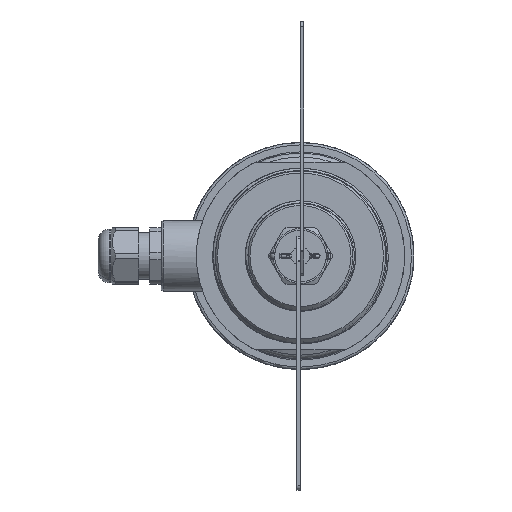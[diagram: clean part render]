
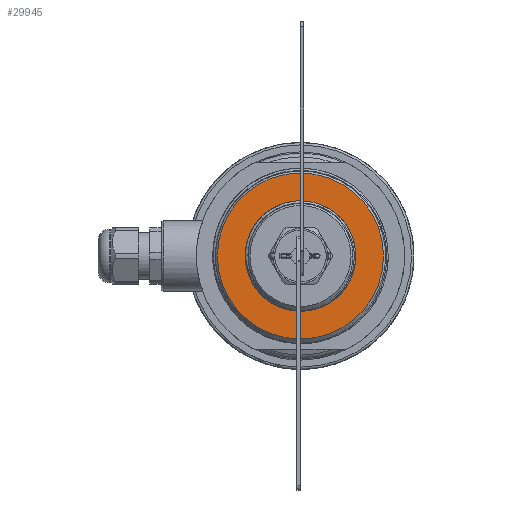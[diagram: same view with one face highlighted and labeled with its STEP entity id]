
A CAD part, front view. The second image highlights one B-rep face of the part: STEP entity #29945.
In plain terms, the highlighted planar face has unit normal (0, -1, 0).
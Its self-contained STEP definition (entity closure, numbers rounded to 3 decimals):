
#1810 = VERTEX_POINT ( 'NONE', #2160 ) ;
#2160 = CARTESIAN_POINT ( 'NONE',  ( -9.388, 94.5, 21.653 ) ) ;
#2248 = DIRECTION ( 'NONE',  ( 0., 0., 1. ) ) ;
#2866 = AXIS2_PLACEMENT_3D ( 'NONE', #8004, #17338, #26626 ) ;
#3014 = AXIS2_PLACEMENT_3D ( 'NONE', #18112, #27406, #6492 ) ;
#3924 = VERTEX_POINT ( 'NONE', #21439 ) ;
#5234 = AXIS2_PLACEMENT_3D ( 'NONE', #10422, #19768, #29028 ) ;
#5270 = ORIENTED_EDGE ( 'NONE', *, *, #5688, .T. ) ;
#5562 = CARTESIAN_POINT ( 'NONE',  ( 0., 94.5, 0. ) ) ;
#5688 = EDGE_CURVE ( 'NONE', #28614, #3924, #18422, .T. ) ;
#6492 = DIRECTION ( 'NONE',  ( 0., 0., 1. ) ) ;
#6878 = AXIS2_PLACEMENT_3D ( 'NONE', #13840, #23174, #2248 ) ;
#6951 = VERTEX_POINT ( 'NONE', #29865 ) ;
#7161 = ORIENTED_EDGE ( 'NONE', *, *, #16810, .T. ) ;
#7304 = ORIENTED_EDGE ( 'NONE', *, *, #15423, .T. ) ;
#7929 = CIRCLE ( 'NONE', #25013, 35.5 ) ;
#8004 = CARTESIAN_POINT ( 'NONE',  ( 37.5, 94.5, 0. ) ) ;
#8274 = ORIENTED_EDGE ( 'NONE', *, *, #11224, .T. ) ;
#8523 = DIRECTION ( 'NONE',  ( 0., 0., 1. ) ) ;
#9967 = EDGE_CURVE ( 'NONE', #6951, #16761, #24883, .T. ) ;
#10296 = FACE_OUTER_BOUND ( 'NONE', #20923, .T. ) ;
#10422 = CARTESIAN_POINT ( 'NONE',  ( 0., 94.5, 0. ) ) ;
#10663 = CARTESIAN_POINT ( 'NONE',  ( 0., 94.5, -35.5 ) ) ;
#11224 = EDGE_CURVE ( 'NONE', #1810, #28614, #20057, .T. ) ;
#11717 = AXIS2_PLACEMENT_3D ( 'NONE', #5562, #14884, #24211 ) ;
#13840 = CARTESIAN_POINT ( 'NONE',  ( 0., 94.5, 0. ) ) ;
#14884 = DIRECTION ( 'NONE',  ( 0., -1., 0. ) ) ;
#15423 = EDGE_CURVE ( 'NONE', #3924, #1810, #16190, .T. ) ;
#16190 = CIRCLE ( 'NONE', #3014, 23.6 ) ;
#16761 = VERTEX_POINT ( 'NONE', #10663 ) ;
#16810 = EDGE_CURVE ( 'NONE', #16761, #6951, #7929, .T. ) ;
#17338 = DIRECTION ( 'NONE',  ( 0., 1., 0. ) ) ;
#18112 = CARTESIAN_POINT ( 'NONE',  ( 0., 94.5, 0. ) ) ;
#18422 = CIRCLE ( 'NONE', #5234, 23.6 ) ;
#19635 = FACE_BOUND ( 'NONE', #24316, .T. ) ;
#19768 = DIRECTION ( 'NONE',  ( 0., 1., 0. ) ) ;
#20057 = CIRCLE ( 'NONE', #6878, 23.6 ) ;
#20151 = CARTESIAN_POINT ( 'NONE',  ( 0., 94.5, 0. ) ) ;
#20923 = EDGE_LOOP ( 'NONE', ( #25913, #7161 ) ) ;
#21439 = CARTESIAN_POINT ( 'NONE',  ( 8.727, 94.5, 21.927 ) ) ;
#23174 = DIRECTION ( 'NONE',  ( 0., 1., 0. ) ) ;
#24211 = DIRECTION ( 'NONE',  ( 0., 0., 1. ) ) ;
#24316 = EDGE_LOOP ( 'NONE', ( #7304, #8274, #5270 ) ) ;
#24883 = CIRCLE ( 'NONE', #11717, 35.5 ) ;
#25013 = AXIS2_PLACEMENT_3D ( 'NONE', #20151, #29418, #8523 ) ;
#25719 = CARTESIAN_POINT ( 'NONE',  ( 0., 94.5, 23.6 ) ) ;
#25913 = ORIENTED_EDGE ( 'NONE', *, *, #9967, .T. ) ;
#26626 = DIRECTION ( 'NONE',  ( 0., 0., 1. ) ) ;
#27406 = DIRECTION ( 'NONE',  ( 0., 1., 0. ) ) ;
#28614 = VERTEX_POINT ( 'NONE', #25719 ) ;
#28900 = PLANE ( 'NONE',  #2866 ) ;
#29028 = DIRECTION ( 'NONE',  ( 0., 0., 1. ) ) ;
#29418 = DIRECTION ( 'NONE',  ( 0., -1., 0. ) ) ;
#29865 = CARTESIAN_POINT ( 'NONE',  ( 0., 94.5, 35.5 ) ) ;
#29945 = ADVANCED_FACE ( 'NONE', ( #10296, #19635 ), #28900, .F. ) ;
